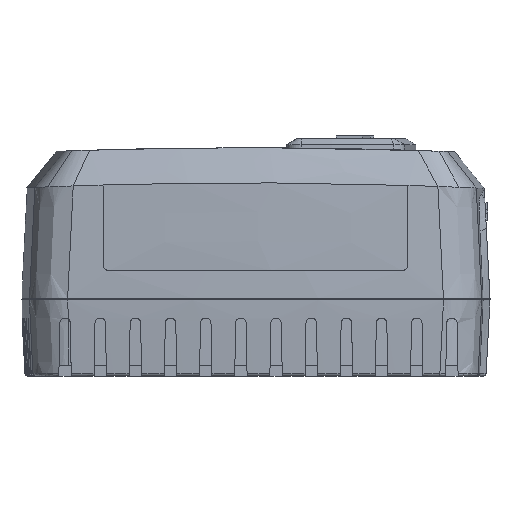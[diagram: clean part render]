
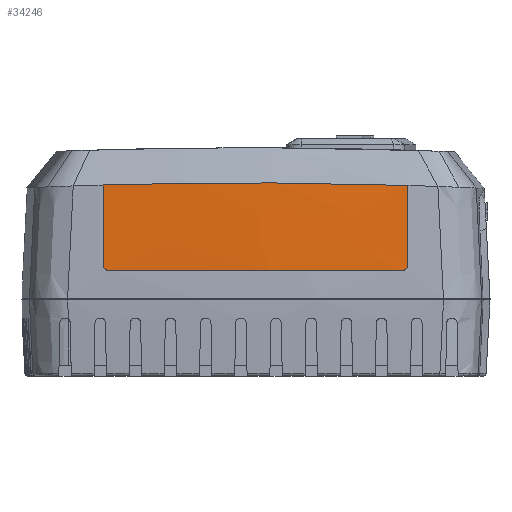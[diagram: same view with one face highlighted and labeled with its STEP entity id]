
A CAD part, left-side view. The second image highlights one B-rep face of the part: STEP entity #34246.
In plain terms, the highlighted free-form (B-spline) face has degree [3, 3] with [9, 4] control points.
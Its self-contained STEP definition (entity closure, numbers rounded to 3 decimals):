
#12313=CARTESIAN_POINT('',(-43.856,25.,5.));
#12314=CARTESIAN_POINT('',(-43.963,22.843,5.));
#12315=CARTESIAN_POINT('',(-44.167,18.202,5.));
#12316=CARTESIAN_POINT('',(-44.403,9.875,5.));
#12317=CARTESIAN_POINT('',(-44.498,1.325,5.));
#12318=CARTESIAN_POINT('',(-44.45,-6.764,5.));
#12319=CARTESIAN_POINT('',(-44.303,-13.736,5.));
#12320=CARTESIAN_POINT('',(-44.101,-19.74,5.));
#12321=CARTESIAN_POINT('',(-43.94,-23.328,5.));
#12322=CARTESIAN_POINT('',(-43.857,-25.,5.));
#12341=CARTESIAN_POINT('',(-43.77,26.,6.));
#12342=CARTESIAN_POINT('',(-43.772,26.,5.942));
#12343=CARTESIAN_POINT('',(-43.777,25.99,
5.826));
#12344=CARTESIAN_POINT('',(-43.785,25.945,
5.657));
#12345=CARTESIAN_POINT('',(-43.794,25.87,
5.498));
#12346=CARTESIAN_POINT('',(-43.804,25.77,
5.354));
#12347=CARTESIAN_POINT('',(-43.815,25.646,
5.23));
#12348=CARTESIAN_POINT('',(-43.826,25.503,
5.13));
#12349=CARTESIAN_POINT('',(-43.837,25.343,
5.055));
#12350=CARTESIAN_POINT('',(-43.847,25.175,
5.01));
#12351=CARTESIAN_POINT('',(-43.853,25.058,5.));
#12352=CARTESIAN_POINT('',(-43.856,25.,5.));
#12354=CARTESIAN_POINT('',(-43.771,-26.,6.));
#12355=CARTESIAN_POINT('',(-43.719,-26.,7.506));
#12356=CARTESIAN_POINT('',(-43.613,-26.,
10.518));
#12357=CARTESIAN_POINT('',(-43.455,-26.,
15.032));
#12358=CARTESIAN_POINT('',(-43.35,-26.,
18.041));
#12359=CARTESIAN_POINT('',(-43.298,-26.,
19.545));
#12361=CARTESIAN_POINT('',(-43.857,-25.,5.));
#12362=CARTESIAN_POINT('',(-43.854,-25.058,5.));
#12363=CARTESIAN_POINT('',(-43.848,-25.174,
5.01));
#12364=CARTESIAN_POINT('',(-43.838,-25.343,
5.055));
#12365=CARTESIAN_POINT('',(-43.827,-25.503,
5.13));
#12366=CARTESIAN_POINT('',(-43.816,-25.646,
5.23));
#12367=CARTESIAN_POINT('',(-43.806,-25.77,
5.354));
#12368=CARTESIAN_POINT('',(-43.796,-25.87,
5.497));
#12369=CARTESIAN_POINT('',(-43.786,-25.945,
5.657));
#12370=CARTESIAN_POINT('',(-43.778,-25.99,
5.826));
#12371=CARTESIAN_POINT('',(-43.773,-26.,5.942));
#12372=CARTESIAN_POINT('',(-43.771,-26.,6.));
#12378=CARTESIAN_POINT('',(-43.77,26.,6.));
#12379=CARTESIAN_POINT('',(-43.717,26.,7.514));
#12380=CARTESIAN_POINT('',(-43.611,26.,
10.541));
#12381=CARTESIAN_POINT('',(-43.453,26.,
15.079));
#12382=CARTESIAN_POINT('',(-43.347,26.,18.103));
#12383=CARTESIAN_POINT('',(-43.294,26.,
19.615));
#12385=CARTESIAN_POINT('',(-43.298,-26.,
19.545));
#12386=CARTESIAN_POINT('',(-43.458,-22.83,
19.645));
#12387=CARTESIAN_POINT('',(-43.802,-14.527,
19.863));
#12388=CARTESIAN_POINT('',(-44.037,-0.535,
20.022));
#12389=CARTESIAN_POINT('',(-43.826,13.786,
19.916));
#12390=CARTESIAN_POINT('',(-43.469,22.553,
19.714));
#12391=CARTESIAN_POINT('',(-43.294,26.,
19.615));
#16639=VERTEX_POINT('',#12385);
#16640=VERTEX_POINT('',#12391);
#16641=VERTEX_POINT('',#12341);
#16642=VERTEX_POINT('',#12352);
#16647=CARTESIAN_POINT('',(-43.857,-25.,5.));
#16649=VERTEX_POINT('',#16647);
#16651=VERTEX_POINT('',#12372);
#34197=CARTESIAN_POINT('',(-43.804,-26.547,
4.255));
#34198=CARTESIAN_POINT('',(-43.623,-26.537,
9.446));
#34199=CARTESIAN_POINT('',(-43.442,-26.528,
14.637));
#34200=CARTESIAN_POINT('',(-43.261,-26.519,
19.828));
#34201=CARTESIAN_POINT('',(-43.813,-26.374,
4.261));
#34202=CARTESIAN_POINT('',(-43.632,-26.364,
9.452));
#34203=CARTESIAN_POINT('',(-43.451,-26.355,
14.643));
#34204=CARTESIAN_POINT('',(-43.27,-26.346,
19.834));
#34205=CARTESIAN_POINT('',(-43.983,-23.032,
4.367));
#34206=CARTESIAN_POINT('',(-43.802,-23.024,
9.558));
#34207=CARTESIAN_POINT('',(-43.621,-23.016,
14.749));
#34208=CARTESIAN_POINT('',(-43.44,-23.008,
19.94));
#34209=CARTESIAN_POINT('',(-44.336,-14.542,
4.589));
#34210=CARTESIAN_POINT('',(-44.155,-14.537,
9.78));
#34211=CARTESIAN_POINT('',(-43.973,-14.532,
14.971));
#34212=CARTESIAN_POINT('',(-43.792,-14.527,
20.162));
#34213=CARTESIAN_POINT('',(-44.57,-0.536,
4.749));
#34214=CARTESIAN_POINT('',(-44.389,-0.535,
9.94));
#34215=CARTESIAN_POINT('',(-44.208,-0.535,
15.131));
#34216=CARTESIAN_POINT('',(-44.026,-0.535,
20.322));
#34217=CARTESIAN_POINT('',(-44.359,13.8,
4.643));
#34218=CARTESIAN_POINT('',(-44.178,13.796,
9.833));
#34219=CARTESIAN_POINT('',(-43.997,13.791,
15.024));
#34220=CARTESIAN_POINT('',(-43.815,13.786,
20.215));
#34221=CARTESIAN_POINT('',(-43.994,22.752,
4.437));
#34222=CARTESIAN_POINT('',(-43.813,22.744,
9.628));
#34223=CARTESIAN_POINT('',(-43.632,22.736,
14.819));
#34224=CARTESIAN_POINT('',(-43.451,22.728,
20.01));
#34225=CARTESIAN_POINT('',(-43.809,26.373,
4.331));
#34226=CARTESIAN_POINT('',(-43.628,26.364,
9.522));
#34227=CARTESIAN_POINT('',(-43.447,26.355,
14.713));
#34228=CARTESIAN_POINT('',(-43.266,26.345,
19.904));
#34229=CARTESIAN_POINT('',(-43.8,26.546,
4.326));
#34230=CARTESIAN_POINT('',(-43.619,26.537,
9.517));
#34231=CARTESIAN_POINT('',(-43.438,26.527,
14.708));
#34232=CARTESIAN_POINT('',(-43.257,26.518,
19.899));
#34233=B_SPLINE_SURFACE_WITH_KNOTS('',3,3,((#34197,#34198,#34199,#34200),
(#34201,#34202,#34203,#34204),(#34205,#34206,#34207,#34208),(#34209,#34210,
#34211,#34212),(#34213,#34214,#34215,#34216),(#34217,#34218,#34219,#34220),(
#34221,#34222,#34223,#34224),(#34225,#34226,#34227,#34228),(#34229,#34230,
#34231,#34232)),.UNSPECIFIED.,.F.,.F.,.F.,(4,1,1,1,1,1,4),(4,4),(
-0.011,0.,0.195,0.497,0.799,
1.,1.01),(-1.02,0.02),.UNSPECIFIED.);
#34234=ORIENTED_EDGE('',*,*,#34188,.F.);
#34236=ORIENTED_EDGE('',*,*,#34235,.T.);
#34238=ORIENTED_EDGE('',*,*,#34237,.F.);
#34240=ORIENTED_EDGE('',*,*,#34239,.F.);
#34242=ORIENTED_EDGE('',*,*,#34241,.F.);
#34243=ORIENTED_EDGE('',*,*,#34175,.F.);
#34244=EDGE_LOOP('',(#34234,#34236,#34238,#34240,#34242,#34243));
#34245=FACE_OUTER_BOUND('',#34244,.F.);
#12323=B_SPLINE_CURVE_WITH_KNOTS('',3,(#12313,#12314,#12315,#12316,#12317,
#12318,#12319,#12320,#12321,#12322),.UNSPECIFIED.,.F.,.F.,(4,1,1,1,1,1,1,4),(
0.,0.143,0.286,0.429,0.571,
0.714,0.857,1.),.UNSPECIFIED.);
#12353=B_SPLINE_CURVE_WITH_KNOTS('',3,(#12341,#12342,#12343,#12344,#12345,
#12346,#12347,#12348,#12349,#12350,#12351,#12352),.UNSPECIFIED.,.F.,.F.,(4,1,1,
1,1,1,1,1,1,4),(0.,0.111,0.222,0.333,
0.444,0.556,0.667,0.778,
0.889,1.),.UNSPECIFIED.);
#12360=B_SPLINE_CURVE_WITH_KNOTS('',3,(#12354,#12355,#12356,#12357,#12358,
#12359),.UNSPECIFIED.,.F.,.F.,(4,1,1,4),(0.,0.333,
0.667,1.),.UNSPECIFIED.);
#12373=B_SPLINE_CURVE_WITH_KNOTS('',3,(#12361,#12362,#12363,#12364,#12365,
#12366,#12367,#12368,#12369,#12370,#12371,#12372),.UNSPECIFIED.,.F.,.F.,(4,1,1,
1,1,1,1,1,1,4),(0.,0.111,0.222,0.333,
0.444,0.556,0.667,0.778,
0.889,1.),.UNSPECIFIED.);
#12384=B_SPLINE_CURVE_WITH_KNOTS('',3,(#12378,#12379,#12380,#12381,#12382,
#12383),.UNSPECIFIED.,.F.,.F.,(4,1,1,4),(0.,0.333,
0.667,1.),.UNSPECIFIED.);
#12392=B_SPLINE_CURVE_WITH_KNOTS('',3,(#12385,#12386,#12387,#12388,#12389,
#12390,#12391),.UNSPECIFIED.,.F.,.F.,(4,1,1,1,4),(0.,0.195,
0.497,0.799,1.),.UNSPECIFIED.);
#34175=EDGE_CURVE('',#16642,#16649,#12323,.T.);
#34188=EDGE_CURVE('',#16641,#16642,#12353,.T.);
#34235=EDGE_CURVE('',#16641,#16640,#12384,.T.);
#34237=EDGE_CURVE('',#16639,#16640,#12392,.T.);
#34239=EDGE_CURVE('',#16651,#16639,#12360,.T.);
#34241=EDGE_CURVE('',#16649,#16651,#12373,.T.);
#34246=ADVANCED_FACE('',(#34245),#34233,.F.);
